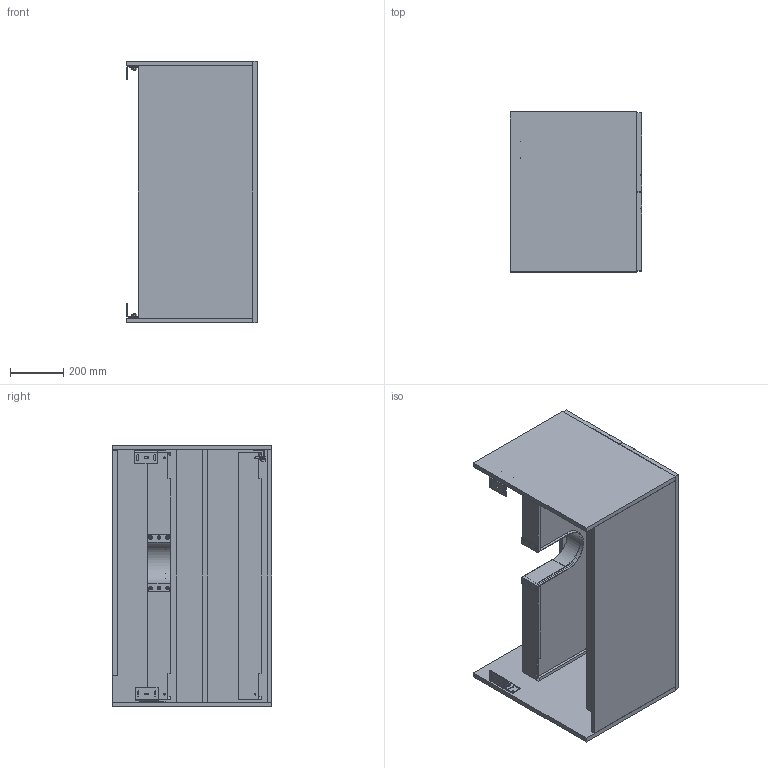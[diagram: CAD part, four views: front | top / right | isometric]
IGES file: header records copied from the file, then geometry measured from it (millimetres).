
Global section: file name: Pure Meta 3D ; native system: Autodesk Inventor 2024; preprocessor: unknown; author: pc19; date: 20251203.085309; units: millimetre
Bounding box: 493 x 600 x 985 mm (x, y, z)
Volume: 40413131.7 mm3; surface area: 6251489.2 mm2
Topology: 33 solids, 33 shells, 811 faces, 2166 edges, 1481 vertices
Faces by surface type: bspline 811
